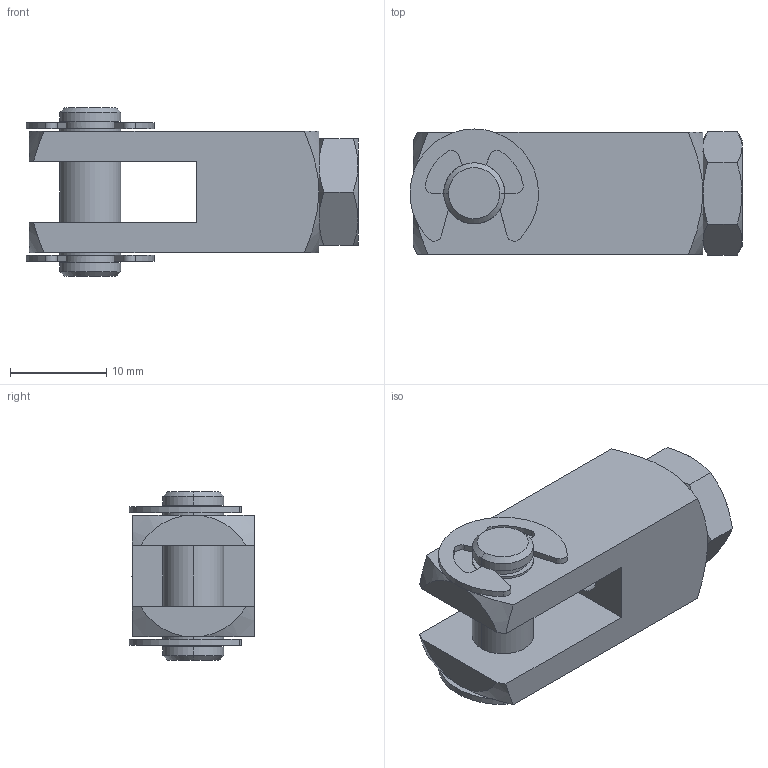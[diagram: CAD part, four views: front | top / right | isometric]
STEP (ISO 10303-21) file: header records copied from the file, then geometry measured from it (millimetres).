
FILE_DESCRIPTION((''),'2;1');
FILE_NAME('M127003_ASM','2020-06-22T16:54:50',('MeFernandez'),('ASCO Numatics'),'CREO PARAMETRIC BY PTC INC, 2018190','CREO PARAMETRIC BY PTC INC, 2018190','');
FILE_SCHEMA(('CONFIG_CONTROL_DESIGN'));
Length unit declared in the file: inch
Products named in the file (3): M127003_CLEVIS-PIN; M190001; M127003_ASM
Assembly tree (2 placements, depth 2):
  M127003_ASM
    M127003_CLEVIS-PIN
    M190001
Bounding box: 34.56 x 13.11 x 17.58 mm (x, y, z)
Volume: 3876.1 mm3; surface area: 3334.6 mm2
Topology: 3 solids, 3 shells, 110 faces, 282 edges, 172 vertices
Faces by surface type: plane 44, cylinder 36, cone 30
Entity records: 3640 total; most frequent: CARTESIAN_POINT 853, DIRECTION 586, ORIENTED_EDGE 564, EDGE_CURVE 282, AXIS2_PLACEMENT_3D 233, VERTEX_POINT 172, VECTOR 120, LINE 120
